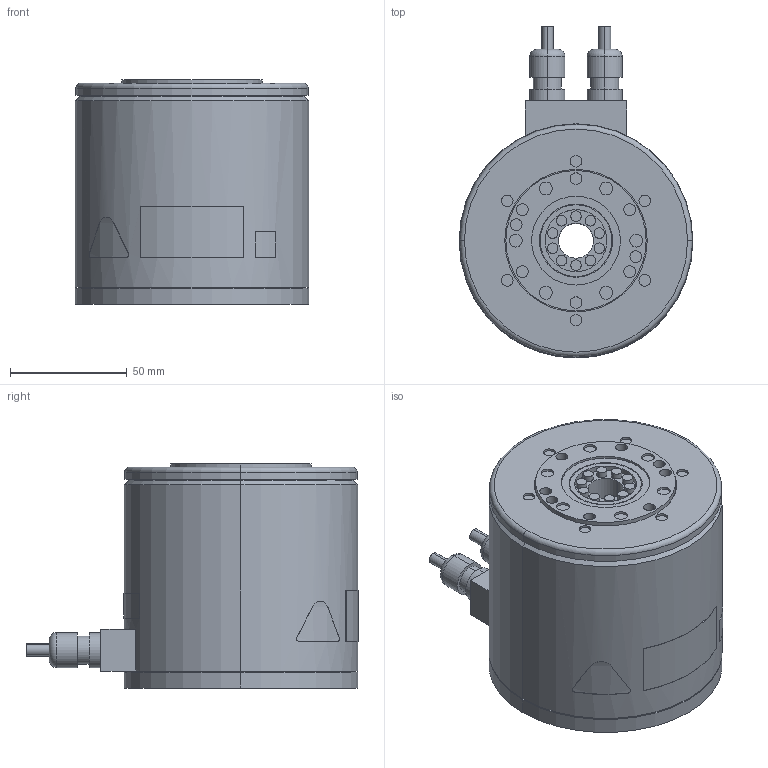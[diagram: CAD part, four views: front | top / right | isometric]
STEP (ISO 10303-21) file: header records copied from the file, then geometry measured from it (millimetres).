
FILE_DESCRIPTION (( 'STEP AP203' ), '1' );
FILE_NAME ('sgm7f_05a_a4_.STEP', '2016-08-03T08:04:53', ( '' ), ( '' ), 'SwSTEP 2.0', 'SolidWorks 2010', '' );
FILE_SCHEMA (( 'CONFIG_CONTROL_DESIGN' ));
Length unit declared in the file: millimetre
Products named in the file (1): sgm7f_05a_a4_
Bounding box: 100 x 142.1 x 96 mm (x, y, z)
Volume: 740005.3 mm3; surface area: 58130.8 mm2
Topology: 1 solids, 1 shells, 227 faces, 468 edges, 308 vertices
Faces by surface type: cylinder 131, plane 81, torus 6, bspline 5, cone 4
Entity records: 6413 total; most frequent: CARTESIAN_POINT 1261, DIRECTION 1182, ORIENTED_EDGE 936, AXIS2_PLACEMENT_3D 507, EDGE_CURVE 468, VERTEX_POINT 308, EDGE_LOOP 294, CIRCLE 284
